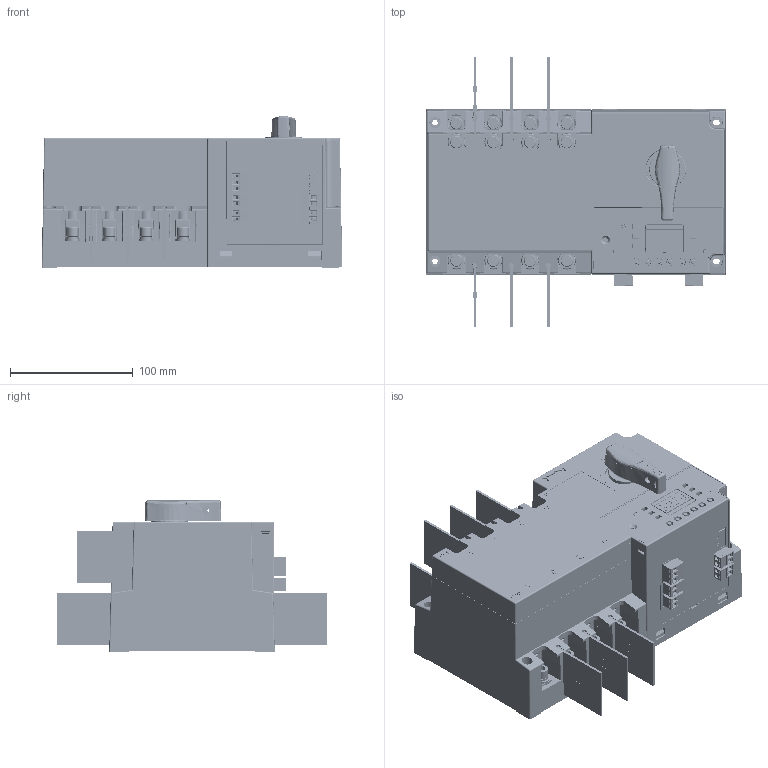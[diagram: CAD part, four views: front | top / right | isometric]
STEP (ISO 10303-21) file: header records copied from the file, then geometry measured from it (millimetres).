
FILE_DESCRIPTION (( 'STEP AP214' ), '1' );
FILE_NAME ('NDQ2A-125H價掛倰-4P耀倰芞.STEP', '2023-09-07T03:13:24', ( '' ), ( '' ), 'SwSTEP 2.0', 'SolidWorks 2018', '' );
FILE_SCHEMA (( 'AUTOMOTIVE_DESIGN' ));
Length unit declared in the file: millimetre
Products named in the file (84): 2EDG-2P脣芛-1; 2EDG-3P脣釱褲; 葡裔啣; 2EDG-2P脣芛褲; 2EDG-2P眻褐脣釱-1; 备用进线触头组件; 2EDG-3P脣芛裔; 2EDG-蹟隊; 坶諶; 常用进线触头组件-3; M4X35蹟隊.SLDASM(GB_CROSS_SCREWS_TYPE1 M4X35-35  H type-N); 硌尨腑; M6-16囀鞠褒郪磁蹟隊-1; M4蹟譫(GB_FASTENER_NUT_SNAB1 M4-N); 常用出线触头组件-2; 杅鎢奪; 常用进线触头组件-2; 忒梟; M6-16囀鞠褒郪磁蹟隊; 掘蚚羲壽菁釱1; す菜4(GB_FASTENER_WASHER_PWNA 4); 常用进线触头组件-1; 2EDG-3P眻褐脣釱; 諷秶菁釱3; 常用出线触头组件-1; 路說え; M6x10囀鞠褒蹟佪.SLDPRT; 常用出线触头组件-3; 偌聽; 諷秶醱裔2SLDPRT; M4X35三组和螺钉-1; 忒梟蚾饜; 常用出线触头组件; 蛌諉啣; 2EDG-2P眻褐脣釱; M6-16囀鞠褒郪磁蹟隊-8; 2EDG-2P脣芛-3; 备用进线触头组件-2; 羲壽醱裔1; 常用进线触头组件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
Assembly tree (219 placements, depth 6):
  NDQ2A-125H價掛倰-4P耀倰芞
    常用进线触头组件
      掘蚚萇埭揖芛
    常用出线触头组件
      M6-16囀鞠褒郪磁蹟隊
        M6鞠褒楊擘醱蹟譫(GB_HEXAGON_TYPE12 M6-N)
        6mm粟菜(GB_FASTENER_WASHER_SW 6)
        6mm平垫(GB_FASTENER_WASHER_SMWC 6)
      蛹婥揖芛
    常用出线触头组件-1
      M6-16囀鞠褒郪磁蹟隊-1
        M6鞠褒楊擘醱蹟譫(GB_HEXAGON_TYPE12 M6-N)
        6mm粟菜(GB_FASTENER_WASHER_SW 6)
        6mm平垫(GB_FASTENER_WASHER_SMWC 6)
      蛹婥揖芛
    常用出线触头组件-2
      M6-16囀鞠褒郪磁蹟隊-2
        M6鞠褒楊擘醱蹟譫(GB_HEXAGON_TYPE12 M6-N)
        6mm粟菜(GB_FASTENER_WASHER_SW 6)
        6mm平垫(GB_FASTENER_WASHER_SMWC 6)
      蛹婥揖芛
    常用出线触头组件-3
      M6-16囀鞠褒郪磁蹟隊-3
        M6鞠褒楊擘醱蹟譫(GB_HEXAGON_TYPE12 M6-N)
        6mm粟菜(GB_FASTENER_WASHER_SW 6)
        6mm平垫(GB_FASTENER_WASHER_SMWC 6)
      蛹婥揖芛
    常用进线触头组件-1
      掘蚚萇埭揖芛
    常用进线触头组件-2
      掘蚚萇埭揖芛
    常用进线触头组件-3
      掘蚚萇埭揖芛
    备用进线触头组件
      M6-16囀鞠褒郪磁蹟隊-4
        M6鞠褒楊擘醱蹟譫(GB_HEXAGON_TYPE12 M6-N)
        6mm粟菜(GB_FASTENER_WASHER_SW 6)
        6mm平垫(GB_FASTENER_WASHER_SMWC 6)
      都蚚萇埭揖芛
    备用进线触头组件-1
      M6-16囀鞠褒郪磁蹟隊-5
        M6鞠褒楊擘醱蹟譫(GB_HEXAGON_TYPE12 M6-N)
        6mm粟菜(GB_FASTENER_WASHER_SW 6)
        6mm平垫(GB_FASTENER_WASHER_SMWC 6)
      都蚚萇埭揖芛
    备用进线触头组件-2
      M6-16囀鞠褒郪磁蹟隊-6
        M6鞠褒楊擘醱蹟譫(GB_HEXAGON_TYPE12 M6-N)
        6mm粟菜(GB_FASTENER_WASHER_SW 6)
        6mm平垫(GB_FASTENER_WASHER_SMWC 6)
      都蚚萇埭揖芛
    备用进线触头组件-3
      M6-16囀鞠褒郪磁蹟隊-7
        M6鞠褒楊擘醱蹟譫(GB_HEXAGON_TYPE12 M6-N)
        6mm粟菜(GB_FASTENER_WASHER_SW 6)
        6mm平垫(GB_FASTENER_WASHER_SMWC 6)
      都蚚萇埭揖芛
    諷秶ん1
      翋啣
        2EDG-3P眻褐韁宒傷赽
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Bounding box: 245.02 x 220 x 123.7 mm (x, y, z)
Volume: 1013769.1 mm3; surface area: 818013.9 mm2
Topology: 180 solids, 185 shells, 17490 faces, 47607 edges, 30755 vertices
Faces by surface type: plane 10106, cylinder 5057, cone 1181, bspline 1026, sphere 66, torus 54
Entity records: 561444 total; most frequent: CARTESIAN_POINT 221082, ORIENTED_EDGE 76438, DIRECTION 59991, EDGE_CURVE 38219, LINE 25165, VECTOR 25165, VERTEX_POINT 25038, AXIS2_PLACEMENT_3D 17413
